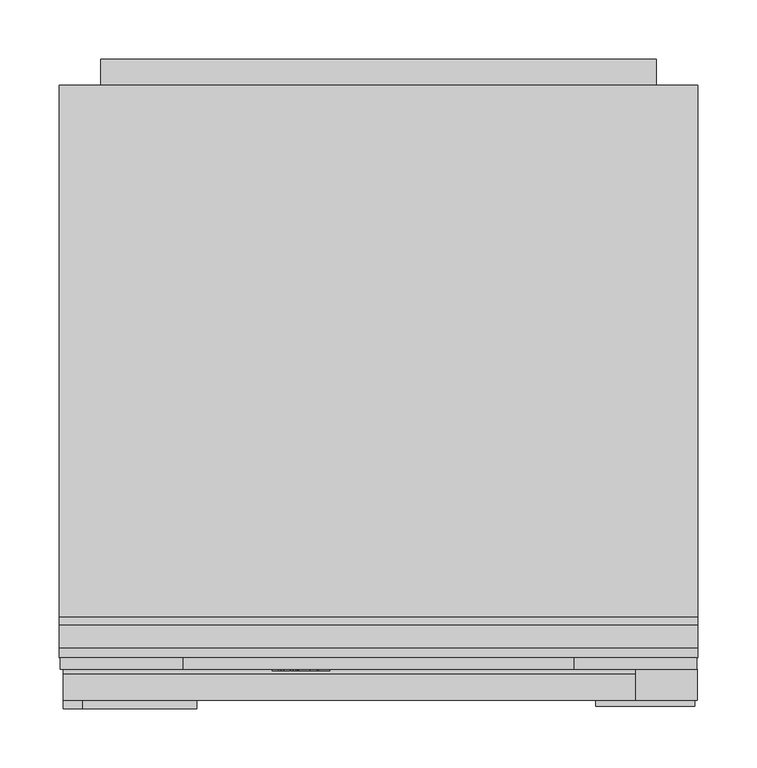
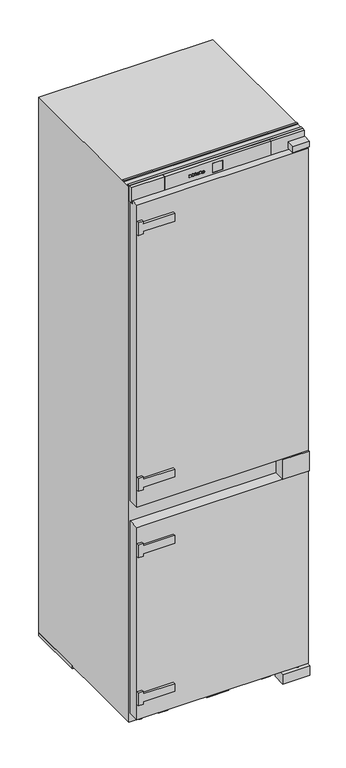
"""IFC4 building model written with IfcOpenShell, lengths in millimetres: proxy geometry, 12445080_EU1_KFN7733E : 38773305_EU1_12445080_KFN7733E."""

from ifc_helpers import new_model, si_unit, point, frame, frame_2d, origin, origin_with_axes, place, context, project, spatial, polyline, circle_curve, ellipse_curve, trimmed, segment, composite_curve, outline, extrude, faceted_brep, source, transform, mapped, element, save
from ifc_brep_helpers import plane_surface, cylinder_surface, revolved_surface, extruded_surface, advanced_brep


def specialty_equipment_90f1e37e(model_context):
    return source(origin(), model_context, "Body", "SolidModel", [
        advanced_brep(
        [(-46.64, 32.0, 1742.896), (-46.64, 32.0, 1743.704), (-41.288, 32.0, 1743.704), (-50.6, 32.0, 1743.704), (-48.4, 32.0, 1741.0), (-41.424, 32.0, 1742.896), (-43.84, 32.0, 1742.896), (-45.744, 32.0, 1742.0), (-46.64, 32.0, 1744.728), (-46.64, 32.0, 1745.6), (-45.272, 32.0, 1745.6), (-45.272, 32.0, 1744.728), (-46.64, 33.0, 1742.896), (-45.744, 33.0, 1742.0), (-43.84, 33.0, 1742.896), (-41.424, 33.0, 1742.896), (-48.4, 33.0, 1741.0), (-50.6, 33.0, 1743.704), (-41.288, 33.0, 1743.704), (-46.64, 33.0, 1743.704), (-46.64, 33.0, 1744.728), (-45.272, 33.0, 1744.728), (-45.272, 33.0, 1745.6), (-46.64, 33.0, 1745.6)],
        [
            (0, 1),
            (1, 2),
            (2, 3, ellipse_curve(frame((-45.944, 32.0, 1743.704), z_axis=(0.0, -1.0, 0.0), x_axis=(-1.0, 0.0, 0.0)), 4.656, 3.848)),
            (3, 4, circle_curve(frame((-47.5039564, 32.0, 1743.976), z_axis=(0.0, -1.0, 0.0), x_axis=(0.0, 0.0, -1.0)), 3.1079688)),
            (4, 5, circle_curve(frame((-46.0372064, 32.0, 1746.088), z_axis=(0.0, -1.0, 0.0), x_axis=(0.0, 0.0, -1.0)), 5.6098607)),
            (5, 6),
            (6, 7, circle_curve(frame((-45.3529412, 32.0, 1743.64), z_axis=(0.0, 1.0, 0.0), x_axis=(0.0, 0.0, -1.0)), 1.6859795)),
            (7, 0, circle_curve(frame((-45.744, 32.0, 1742.896), z_axis=(0.0, 1.0, 0.0), x_axis=(0.0, 0.0, -1.0)), 0.896)),
            (8, 9),
            (9, 10, circle_curve(frame((-45.956, 32.0, 1745.6), z_axis=(0.0, 1.0, 0.0), x_axis=(0.0, 0.0, -1.0)), 0.684)),
            (10, 11),
            (11, 8),
            (12, 13, circle_curve(frame((-45.744, 33.0, 1742.896), z_axis=(0.0, -1.0, 0.0), x_axis=(0.0, 0.0, -1.0)), 0.896)),
            (13, 14, circle_curve(frame((-45.3529412, 33.0, 1743.64), z_axis=(0.0, -1.0, 0.0), x_axis=(0.0, 0.0, -1.0)), 1.6859795)),
            (14, 15),
            (15, 16, circle_curve(frame((-46.0372064, 33.0, 1746.088), z_axis=(0.0, 1.0, 0.0), x_axis=(0.0, 0.0, -1.0)), 5.6098607)),
            (16, 17, circle_curve(frame((-47.5039564, 33.0, 1743.976), z_axis=(0.0, 1.0, 0.0), x_axis=(0.0, 0.0, -1.0)), 3.1079688)),
            (17, 18, ellipse_curve(frame((-45.944, 33.0, 1743.704), z_axis=(0.0, 1.0, 0.0), x_axis=(-1.0, 0.0, 0.0)), 4.656, 3.848)),
            (18, 19),
            (19, 12),
            (20, 21),
            (21, 22),
            (22, 23, circle_curve(frame((-45.956, 33.0, 1745.6), z_axis=(0.0, -1.0, 0.0), x_axis=(0.0, 0.0, -1.0)), 0.684)),
            (23, 20),
            (0, 12),
            (19, 1),
            (18, 2),
            (5, 15),
            (14, 6),
            (17, 3),
            (13, 7),
            (16, 4),
            (8, 20),
            (23, 9),
            (22, 10),
            (21, 11),
        ],
        [
            plane_surface(frame((-46.64, 32.0, 1743.704), z_axis=(0.0, -1.0, 0.0), x_axis=(0.0, 0.0, 1.0))),
            plane_surface(frame((-46.64, 33.0, 1743.704), z_axis=(0.0, 1.0, 0.0), x_axis=(0.0, 0.0, -1.0))),
            plane_surface(frame((-46.64, 32.0, 1742.896), z_axis=(1.0, 0.0, 0.0), x_axis=(0.0, 1.0, 0.0))),
            plane_surface(frame((-46.64, 32.0, 1743.704), z_axis=(0.0, 0.0, -1.0), x_axis=(0.0, 1.0, 0.0))),
            plane_surface(frame((-41.424, 32.0, 1742.896), z_axis=(0.0, 0.0, 1.0), x_axis=(0.0, 1.0, 0.0))),
            extruded_surface(trimmed(ellipse_curve(frame((-45.944, 34.0, 1743.704), z_axis=(0.0, -1.0, 0.0), x_axis=(-1.0, 0.0, 0.0)), 4.656, 3.848), [point((-41.288, 34.0, 1743.704))], [point((-50.6, 34.0, 1743.704))], True, "CARTESIAN"), (0.0, -1.0, 0.0), 1.0),
            revolved_surface(polyline([(-45.3529412, 33.0, 1741.9540205), (-45.3529412, 32.0, 1741.9540205)]), (-45.3529412, 33.0, 1743.64), (0.0, 1.0, 0.0)),
            revolved_surface(polyline([(-45.744, 33.0, 1742.0), (-45.744, 32.0, 1742.0)]), (-45.744, 33.0, 1742.896), (0.0, 1.0, 0.0)),
            cylinder_surface(frame((-47.5039564, 33.0, 1743.976), z_axis=(0.0, -1.0, 0.0), x_axis=(0.0, 0.0, -1.0)), 3.1079688),
            cylinder_surface(frame((-46.0372064, 33.0, 1746.088), z_axis=(0.0, -1.0, 0.0), x_axis=(0.0, 0.0, -1.0)), 5.6098607),
            plane_surface(frame((-46.64, 32.0, 1744.728), z_axis=(1.0, 0.0, 0.0), x_axis=(0.0, 1.0, 0.0))),
            revolved_surface(polyline([(-45.956, 33.0, 1744.916), (-45.956, 32.0, 1744.916)]), (-45.956, 33.0, 1745.6), (0.0, 1.0, 0.0)),
            plane_surface(frame((-45.272, 32.0, 1745.6), z_axis=(-1.0, 0.0, 0.0), x_axis=(0.0, 1.0, 0.0))),
            plane_surface(frame((-45.272, 32.0, 1744.728), z_axis=(0.0, 0.0, 1.0), x_axis=(0.0, 1.0, 0.0))),
        ],
        [
            (0, [[1, 2, 3, 4, 5, 6, 7, 8], [9, 10, 11, 12]]),
            (1, [[13, 14, 15, 16, 17, 18, 19, 20], [21, 22, 23, 24]]),
            (2, [[-1, 25, -20, 26]]),
            (3, [[-2, -26, -19, 27]]),
            (4, [[-6, 28, -15, 29]]),
            (5, [[-3, -27, -18, 30]]),
            (6, [[-7, -29, -14, 31]]),
            (7, [[-8, -31, -13, -25]]),
            (8, [[-4, -30, -17, 32]]),
            (9, [[-5, -32, -16, -28]]),
            (10, [[-9, 33, -24, 34]]),
            (11, [[-10, -34, -23, 35]]),
            (12, [[-11, -35, -22, 36]]),
            (13, [[-12, -36, -21, -33]]),
        ],
    ),
        advanced_brep(
        [(-63.336, 32.0, 1742.896), (-63.336, 32.0, 1743.704), (-57.984, 32.0, 1743.704), (-67.296, 32.0, 1743.704), (-65.096, 32.0, 1741.0), (-58.12, 32.0, 1742.896), (-60.536, 32.0, 1742.896), (-62.44, 32.0, 1742.0), (-63.336, 32.0, 1744.728), (-63.336, 32.0, 1745.6), (-61.968, 32.0, 1745.6), (-61.968, 32.0, 1744.728), (-63.336, 33.0, 1742.896), (-62.44, 33.0, 1742.0), (-60.536, 33.0, 1742.896), (-58.12, 33.0, 1742.896), (-65.096, 33.0, 1741.0), (-67.296, 33.0, 1743.704), (-57.984, 33.0, 1743.704), (-63.336, 33.0, 1743.704), (-63.336, 33.0, 1744.728), (-61.968, 33.0, 1744.728), (-61.968, 33.0, 1745.6), (-63.336, 33.0, 1745.6)],
        [
            (0, 1),
            (1, 2),
            (2, 3, ellipse_curve(frame((-62.64, 32.0, 1743.704), z_axis=(0.0, -1.0, 0.0), x_axis=(-1.0, 0.0, 0.0)), 4.656, 3.848)),
            (3, 4, circle_curve(frame((-64.1999564, 32.0, 1743.976), z_axis=(0.0, -1.0, 0.0), x_axis=(0.0, 0.0, -1.0)), 3.1079688)),
            (4, 5, circle_curve(frame((-62.7332064, 32.0, 1746.088), z_axis=(0.0, -1.0, 0.0), x_axis=(0.0, 0.0, -1.0)), 5.6098607)),
            (5, 6),
            (6, 7, circle_curve(frame((-62.0489412, 32.0, 1743.64), z_axis=(0.0, 1.0, 0.0), x_axis=(0.0, 0.0, -1.0)), 1.6859795)),
            (7, 0, circle_curve(frame((-62.44, 32.0, 1742.896), z_axis=(0.0, 1.0, 0.0), x_axis=(0.0, 0.0, -1.0)), 0.896)),
            (8, 9),
            (9, 10, circle_curve(frame((-62.652, 32.0, 1745.6), z_axis=(0.0, 1.0, 0.0), x_axis=(0.0, 0.0, -1.0)), 0.684)),
            (10, 11),
            (11, 8),
            (12, 13, circle_curve(frame((-62.44, 33.0, 1742.896), z_axis=(0.0, -1.0, 0.0), x_axis=(0.0, 0.0, -1.0)), 0.896)),
            (13, 14, circle_curve(frame((-62.0489412, 33.0, 1743.64), z_axis=(0.0, -1.0, 0.0), x_axis=(0.0, 0.0, -1.0)), 1.6859795)),
            (14, 15),
            (15, 16, circle_curve(frame((-62.7332064, 33.0, 1746.088), z_axis=(0.0, 1.0, 0.0), x_axis=(0.0, 0.0, -1.0)), 5.6098607)),
            (16, 17, circle_curve(frame((-64.1999564, 33.0, 1743.976), z_axis=(0.0, 1.0, 0.0), x_axis=(0.0, 0.0, -1.0)), 3.1079688)),
            (17, 18, ellipse_curve(frame((-62.64, 33.0, 1743.704), z_axis=(0.0, 1.0, 0.0), x_axis=(-1.0, 0.0, 0.0)), 4.656, 3.848)),
            (18, 19),
            (19, 12),
            (20, 21),
            (21, 22),
            (22, 23, circle_curve(frame((-62.652, 33.0, 1745.6), z_axis=(0.0, -1.0, 0.0), x_axis=(0.0, 0.0, -1.0)), 0.684)),
            (23, 20),
            (0, 12),
            (19, 1),
            (18, 2),
            (5, 15),
            (14, 6),
            (17, 3),
            (13, 7),
            (16, 4),
            (8, 20),
            (23, 9),
            (22, 10),
            (21, 11),
        ],
        [
            plane_surface(frame((-63.336, 32.0, 1743.704), z_axis=(0.0, -1.0, 0.0), x_axis=(0.0, 0.0, 1.0))),
            plane_surface(frame((-63.336, 33.0, 1743.704), z_axis=(0.0, 1.0, 0.0), x_axis=(0.0, 0.0, -1.0))),
            plane_surface(frame((-63.336, 32.0, 1742.896), z_axis=(1.0, 0.0, 0.0), x_axis=(0.0, 1.0, 0.0))),
            plane_surface(frame((-63.336, 32.0, 1743.704), z_axis=(0.0, 0.0, -1.0), x_axis=(0.0, 1.0, 0.0))),
            plane_surface(frame((-58.12, 32.0, 1742.896), z_axis=(0.0, 0.0, 1.0), x_axis=(0.0, 1.0, 0.0))),
            extruded_surface(trimmed(ellipse_curve(frame((-62.64, 34.0, 1743.704), z_axis=(0.0, -1.0, 0.0), x_axis=(-1.0, 0.0, 0.0)), 4.656, 3.848), [point((-57.984, 34.0, 1743.704))], [point((-67.296, 34.0, 1743.704))], True, "CARTESIAN"), (0.0, -1.0, 0.0), 1.0),
            revolved_surface(polyline([(-62.0489412, 33.0, 1741.9540205), (-62.0489412, 32.0, 1741.9540205)]), (-62.0489412, 33.0, 1743.64), (0.0, 1.0, 0.0)),
            revolved_surface(polyline([(-62.44, 33.0, 1742.0), (-62.44, 32.0, 1742.0)]), (-62.44, 33.0, 1742.896), (0.0, 1.0, 0.0)),
            cylinder_surface(frame((-64.1999564, 33.0, 1743.976), z_axis=(0.0, -1.0, 0.0), x_axis=(0.0, 0.0, -1.0)), 3.1079688),
            cylinder_surface(frame((-62.7332064, 33.0, 1746.088), z_axis=(0.0, -1.0, 0.0), x_axis=(0.0, 0.0, -1.0)), 5.6098607),
            plane_surface(frame((-63.336, 32.0, 1744.728), z_axis=(1.0, 0.0, 0.0), x_axis=(0.0, 1.0, 0.0))),
            revolved_surface(polyline([(-62.652, 33.0, 1744.916), (-62.652, 32.0, 1744.916)]), (-62.652, 33.0, 1745.6), (0.0, 1.0, 0.0)),
            plane_surface(frame((-61.968, 32.0, 1745.6), z_axis=(-1.0, 0.0, 0.0), x_axis=(0.0, 1.0, 0.0))),
            plane_surface(frame((-61.968, 32.0, 1744.728), z_axis=(0.0, 0.0, 1.0), x_axis=(0.0, 1.0, 0.0))),
        ],
        [
            (0, [[1, 2, 3, 4, 5, 6, 7, 8], [9, 10, 11, 12]]),
            (1, [[13, 14, 15, 16, 17, 18, 19, 20], [21, 22, 23, 24]]),
            (2, [[-1, 25, -20, 26]]),
            (3, [[-2, -26, -19, 27]]),
            (4, [[-6, 28, -15, 29]]),
            (5, [[-3, -27, -18, 30]]),
            (6, [[-7, -29, -14, 31]]),
            (7, [[-8, -31, -13, -25]]),
            (8, [[-4, -30, -17, 32]]),
            (9, [[-5, -32, -16, -28]]),
            (10, [[-9, 33, -24, 34]]),
            (11, [[-10, -34, -23, 35]]),
            (12, [[-11, -35, -22, 36]]),
            (13, [[-12, -36, -21, -33]]),
        ],
    ),
        extrude(outline(polyline([(1748.528, -72.08), (1747.232, -71.472), (1748.496, -68.76), (1749.792, -69.36), (1748.528, -72.08)])), frame((0.0, 32.0, 0.0), z_axis=(0.0, 1.0, 0.0), x_axis=(0.0, 0.0, 1.0)), (0.0, 0.0, 1.0), 1.0),
        extrude(outline(polyline([(1747.056, -74.056), (1745.624, -74.056), (1745.624, -73.104), (1742.344, -73.104), (1742.344, -74.056), (1741.0, -74.056), (1741.0, -67.744), (1742.344, -67.744), (1742.344, -68.672), (1747.056, -68.672), (1747.056, -74.056)])), frame((0.0, 32.0, 0.0), z_axis=(0.0, 1.0, 0.0), x_axis=(0.0, 0.0, 1.0)), (0.0, 0.0, 1.0), 1.0),
        extrude(outline(polyline([(1747.696, -57.536), (1747.696, -56.576), (1742.344, -56.576), (1742.344, -57.536), (1741.0, -57.536), (1741.0, -51.048), (1742.344, -51.048), (1742.344, -52.032), (1749.0, -52.032), (1749.0, -57.536), (1747.696, -57.536)])), frame((0.0, 32.0, 0.0), z_axis=(0.0, 1.0, 0.0), x_axis=(0.0, 0.0, 1.0)), (0.0, 0.0, 1.0), 1.0),
        extrude(outline(polyline([(1747.696, -90.0), (1747.696, -89.032), (1742.344, -89.032), (1742.344, -90.0), (1741.0, -90.0), (1741.0, -86.48), (1742.344, -86.48), (1742.344, -87.44), (1745.7471247, -87.44), (1741.0, -83.864), (1745.8152223, -80.272), (1742.344, -80.272), (1742.344, -81.256), (1741.0, -81.256), (1741.0, -74.872), (1742.344, -74.872), (1742.344, -75.888), (1747.696, -75.888), (1747.696, -74.872), (1749.0, -74.872), (1749.0, -79.744), (1746.0, -82.08), (1749.0, -84.424), (1749.0, -90.0), (1747.696, -90.0)])), frame((0.0, 32.0, 0.0), z_axis=(0.0, 1.0, 0.0), x_axis=(0.0, 0.0, 1.0)), (0.0, 0.0, 1.0), 1.0),
        extrude(outline(polyline([(616.0, -250.5), (616.0, -266.5), (574.0, -266.5), (574.0, -250.5), (582.0, -250.5), (582.0, -153.5), (608.0, -153.5), (608.0, -250.5), (616.0, -250.5)])), frame((0.0, 0.0, 0.0), z_axis=(0.0, 1.0, 0.0), x_axis=(0.0, 0.0, 1.0)), (0.0, 0.0, 1.0), 7.0),
        extrude(outline(polyline([(130.0, -250.5), (130.0, -266.5), (88.0, -266.5), (88.0, -250.5), (96.0, -250.5), (96.0, -153.5), (122.0, -153.5), (122.0, -250.5), (130.0, -250.5)])), frame((0.0, 0.0, 0.0), z_axis=(0.0, 1.0, 0.0), x_axis=(0.0, 0.0, 1.0)), (0.0, 0.0, 1.0), 7.0),
        extrude(outline(polyline([(1632.0, -266.5), (1632.0, -250.5), (1640.0, -250.5), (1640.0, -153.5), (1666.0, -153.5), (1666.0, -250.5), (1674.0, -250.5), (1674.0, -266.5), (1632.0, -266.5)])), frame((0.0, 0.0, 0.0), z_axis=(0.0, 1.0, 0.0), x_axis=(0.0, 0.0, 1.0)), (0.0, 0.0, 1.0), 7.0),
        extrude(outline(polyline([(792.0, -266.5), (792.0, -250.5), (800.0, -250.5), (800.0, -153.5), (826.0, -153.5), (826.0, -250.5), (834.0, -250.5), (834.0, -266.5), (792.0, -266.5)])), frame((0.0, 0.0, 0.0), z_axis=(0.0, 1.0, 0.0), x_axis=(0.0, 0.0, 1.0)), (0.0, 0.0, 1.0), 7.0),
        extrude(outline(polyline([(7.0, 736.0), (7.0, 1728.0), (29.0, 1728.0), (29.0, 1715.0), (43.0, 1715.0), (43.0, 736.0), (7.0, 736.0)])), frame((-266.5, 0.0, 0.0), z_axis=(1.0, 0.0, 0.0), x_axis=(0.0, 1.0, 0.0)), (0.0, 0.0, 1.0), 533.0),
        extrude(outline(polyline([(268.5, 7.0), (186.5, 7.0), (186.5, 43.0), (268.5, 43.0), (268.5, 7.0)]), holes=[composite_curve([segment(trimmed(circle_curve(frame_2d((236.5, 16.0)), 6.0), [point((242.5, 16.0))], [point((230.5, 16.0))], True, "CARTESIAN"), True, "CONTINUOUS"), segment(trimmed(circle_curve(frame_2d((236.5, 16.0)), 6.0), [point((230.5, 16.0))], [point((242.5, 16.0))], True, "CARTESIAN"), True, "CONTINUOUS")], self_intersect=False)]), frame((0.0, 0.0, 669.0), z_axis=(0.0, 0.0, 1.0), x_axis=(1.0, 0.0, 0.0)), (0.0, 0.0, 1.0), 64.0),
        extrude(outline(polyline([(183.5, 43.0), (267.5, 43.0), (267.5, 2.0), (183.5, 2.0), (183.5, 43.0)])), frame((0.0, 0.0, 1.0), z_axis=(0.0, 0.0, 1.0), x_axis=(1.0, 0.0, 0.0)), (0.0, 0.0, 1.0), 31.0),
        extrude(outline(polyline([(269.5, 7.0), (217.5, 7.0), (217.5, 33.0), (269.5, 33.0), (269.5, 7.0)])), frame((0.0, 0.0, 1731.0), z_axis=(0.0, 0.0, 1.0), x_axis=(1.0, 0.0, 0.0)), (0.0, 0.0, 1.0), 19.0),
        extrude(outline(polyline([(-266.5, 43.0), (266.5, 43.0), (266.5, 7.0), (-266.5, 7.0), (-266.5, 43.0)])), frame((0.0, 0.0, 38.0), z_axis=(0.0, 0.0, 1.0), x_axis=(1.0, 0.0, 0.0)), (0.0, 0.0, 1.0), 631.0),
        extrude(outline(composite_curve([segment(trimmed(circle_curve(frame_2d((236.5, 16.0)), 6.0), [point((242.5, 16.0))], [point((230.5, 16.0))], False, "CARTESIAN"), True, "CONTINUOUS"), segment(trimmed(circle_curve(frame_2d((236.5, 16.0)), 6.0), [point((230.5, 16.0))], [point((242.5, 16.0))], False, "CARTESIAN"), True, "CONTINUOUS")], self_intersect=False)), frame((0.0, 0.0, 669.0), z_axis=(0.0, 0.0, 1.0), x_axis=(1.0, 0.0, 0.0)), (0.0, 0.0, 1.0), 67.0),
        extrude(outline(composite_curve([segment(trimmed(circle_curve(frame_2d((236.5, 16.0)), 6.0), [point((236.5, 22.0))], [point((236.5, 10.0))], False, "CARTESIAN"), True, "CONTINUOUS"), segment(trimmed(circle_curve(frame_2d((236.5, 16.0)), 6.0), [point((236.5, 10.0))], [point((236.5, 22.0))], False, "CARTESIAN"), True, "CONTINUOUS")], self_intersect=False)), frame((0.0, 0.0, 1728.0), z_axis=(0.0, 0.0, 1.0), x_axis=(1.0, 0.0, 0.0)), (0.0, 0.0, 1.0), 3.0),
        extrude(outline(composite_curve([segment(trimmed(circle_curve(frame_2d((236.5, 16.0)), 6.0), [point((242.5, 16.0))], [point((230.5, 16.0))], False, "CARTESIAN"), True, "CONTINUOUS"), segment(trimmed(circle_curve(frame_2d((236.5, 16.0)), 6.0), [point((230.5, 16.0))], [point((242.5, 16.0))], False, "CARTESIAN"), True, "CONTINUOUS")], self_intersect=False)), frame((0.0, 0.0, 32.0), z_axis=(0.0, 0.0, 1.0), x_axis=(1.0, 0.0, 0.0)), (0.0, 0.0, 1.0), 6.0),
        faceted_brep([(165.0, 33.0, 1770.0), (-165.0, 33.0, 1770.0), (-165.0, 33.0, 1721.0), (165.0, 33.0, 1721.0), (15.0, 33.0, 1761.0), (15.0, 33.0, 1731.0), (-15.0, 33.0, 1731.0), (-15.0, 33.0, 1761.0), (165.0, 43.0, 1770.0), (165.0, 43.0, 1721.0), (-165.0, 43.0, 1721.0), (-165.0, 43.0, 1770.0), (15.0, 34.0, 1761.0), (-15.0, 34.0, 1761.0), (-15.0, 34.0, 1731.0), (15.0, 34.0, 1731.0)], [[[0, 1, 2, 3], [4, 5, 6, 7]], [[8, 9, 10, 11]], [[0, 3, 9, 8]], [[3, 2, 10, 9]], [[2, 1, 11, 10]], [[1, 0, 8, 11]], [[12, 13, 14, 15]], [[12, 15, 5, 4]], [[15, 14, 6, 5]], [[14, 13, 7, 6]], [[13, 12, 4, 7]]]),
        extrude(outline(polyline([(165.0, 43.0), (269.0, 43.0), (269.0, 33.0), (165.0, 33.0), (165.0, 43.0)])), frame((0.0, 0.0, 1721.0), z_axis=(0.0, 0.0, 1.0), x_axis=(1.0, 0.0, 0.0)), (0.0, 0.0, 1.0), 49.0),
        extrude(outline(polyline([(-269.0, 43.0), (-165.0, 43.0), (-165.0, 33.0), (-269.0, 33.0), (-269.0, 43.0)])), frame((0.0, 0.0, 1721.0), z_axis=(0.0, 0.0, 1.0), x_axis=(1.0, 0.0, 0.0)), (0.0, 0.0, 1.0), 49.0),
        extrude(outline(polyline([(-15.0, 34.0), (15.0, 34.0), (15.0, 33.0), (-15.0, 33.0), (-15.0, 34.0)])), frame((0.0, 0.0, 1731.0), z_axis=(0.0, 0.0, 1.0), x_axis=(1.0, 0.0, 0.0)), (0.0, 0.0, 1.0), 30.0),
        extrude(outline(polyline([(1647.0, -235.0), (27.0, -235.0), (27.0, 235.0), (130.0, 235.0), (130.0, 180.0), (160.0, 180.0), (160.0, 235.0), (1647.0, 235.0), (1647.0, -235.0)])), frame((0.0, 527.0, 0.0), z_axis=(0.0, 1.0, 0.0), x_axis=(0.0, 0.0, 1.0)), (0.0, 0.0, 1.0), 22.0),
        extrude(outline(polyline([(-144.929185, 51.0), (-174.0, 51.0), (-194.6983363, 347.0), (-165.6275213, 347.0), (-144.929185, 51.0)])), origin_with_axes(), (0.0, 0.0, 1.0), 10.0),
        extrude(outline(polyline([(144.929185, 51.0), (165.6275213, 347.0), (194.6983363, 347.0), (174.0, 51.0), (144.929185, 51.0)])), origin_with_axes(), (0.0, 0.0, 1.0), 10.0),
        extrude(outline(polyline([(540.4384039, 149.874164), (547.6647626, 149.874164), (547.6647626, 139.824714), (540.2826236, 139.824714), (540.2826236, 141.0836119), (546.4056247, 141.0836119), (546.4056247, 144.3750411), (540.7614845, 144.3750411), (540.7614845, 145.6249589), (546.4056247, 145.6249589), (546.4056247, 148.6148402), (540.4384039, 148.6148402), (540.4384039, 149.874164)])), frame((194.0, 0.0, 0.0), z_axis=(1.0, 0.0, 0.0), x_axis=(0.0, 1.0, 0.0)), (0.0, 0.0, 1.0), 1.0),
        extrude(outline(polyline([(537.1383052, 149.8716162), (538.399354, 149.8716162), (538.399354, 139.824714), (532.1225656, 139.824714), (532.1225656, 141.0927041), (537.1383052, 141.0927041), (537.1383052, 149.8716162)])), frame((194.0, 0.0, 0.0), z_axis=(1.0, 0.0, 0.0), x_axis=(0.0, 1.0, 0.0)), (0.0, 0.0, 1.0), 1.0),
        advanced_brep(
        [(232.5, 527.0, 145.0), (217.5, 527.0, 145.0), (232.5, 548.5, 145.0), (217.5, 533.5, 145.0), (195.0, 548.5, 145.0), (195.0, 533.5, 145.0)],
        [
            (0, 1, circle_curve(frame((225.0, 527.0, 145.0), z_axis=(0.0, -1.0, 0.0), x_axis=(-1.0, 0.0, 0.0)), 7.5)),
            (1, 0, circle_curve(frame((225.0, 527.0, 145.0), z_axis=(0.0, -1.0, 0.0), x_axis=(-1.0, 0.0, 0.0)), 7.5)),
            (0, 2),
            (2, 3, ellipse_curve(frame((225.0, 541.0, 145.0), z_axis=(0.7071067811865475, -0.7071067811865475, 0.0), x_axis=(-0.7071067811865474, -0.7071067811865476, 0.0)), 10.6066017, 7.5)),
            (3, 1),
            (3, 2, ellipse_curve(frame((225.0, 541.0, 145.0), z_axis=(0.7071067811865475, -0.7071067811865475, 0.0), x_axis=(-0.7071067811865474, -0.7071067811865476, 0.0)), 10.6066017, 7.5)),
            (4, 5, circle_curve(frame((195.0, 541.0, 145.0), z_axis=(-1.0, 0.0, 0.0), x_axis=(0.0, -1.0, 0.0)), 7.5)),
            (5, 4, circle_curve(frame((195.0, 541.0, 145.0), z_axis=(-1.0, 0.0, 0.0), x_axis=(0.0, -1.0, 0.0)), 7.5)),
            (2, 4),
            (5, 3),
        ],
        [
            plane_surface(frame((225.0, 527.0, 145.0), z_axis=(0.0, -1.0, 0.0), x_axis=(0.0, 0.0, 1.0))),
            cylinder_surface(frame((225.0, 527.0, 145.0), z_axis=(0.0, -1.0, 0.0), x_axis=(-1.0, 0.0, 0.0)), 7.5),
            plane_surface(frame((195.0, 541.0, 145.0), z_axis=(-1.0, 0.0, 0.0), x_axis=(0.0, 0.0, 1.0))),
            cylinder_surface(frame((225.0, 541.0, 145.0), z_axis=(1.0, 0.0, 0.0), x_axis=(0.0, -1.0, 0.0)), 7.5),
        ],
        [
            (0, [[1, 2]]),
            (1, [[-1, 3, 4, 5]]),
            (1, [[-2, -5, 6, -3]]),
            (2, [[7, 8]]),
            (3, [[-4, 9, -8, 10]]),
            (3, [[-6, -10, -7, -9]]),
        ],
    ),
        extrude(outline(polyline([(-34.0, 43.0), (34.0, 43.0), (34.0, 34.0), (-34.0, 34.0), (-34.0, 43.0)])), frame((0.0, 0.0, 13.0), z_axis=(0.0, 0.0, 1.0), x_axis=(1.0, 0.0, 0.0)), (0.0, 0.0, 1.0), 19.0),
        extrude(outline(polyline([(270.0, 51.0), (270.0, 43.0), (-270.0, 43.0), (-270.0, 51.0), (270.0, 51.0)])), frame((0.0, 0.0, 1767.0), z_axis=(0.0, 0.0, 1.0), x_axis=(1.0, 0.0, 0.0)), (0.0, 0.0, 1.0), 3.0),
        extrude(outline(polyline([(270.0, 77.0), (270.0, 71.0), (-270.0, 71.0), (-270.0, 77.0), (270.0, 77.0)])), frame((0.0, 0.0, 1767.0), z_axis=(0.0, 0.0, 1.0), x_axis=(1.0, 0.0, 0.0)), (0.0, 0.0, 1.0), 3.0),
        extrude(outline(polyline([(-234.0, 43.0), (-234.0, 489.0), (234.0, 489.0), (234.0, 43.0), (-234.0, 43.0)])), frame((0.0, 0.0, 960.0), z_axis=(0.0, 0.0, 1.0), x_axis=(1.0, 0.0, 0.0)), (0.0, 0.0, 1.0), 3.0),
        extrude(outline(polyline([(-209.0, 311.0), (-209.0, 450.0), (209.0, 450.0), (209.0, 311.0), (-209.0, 311.0)])), frame((0.0, 0.0, 93.0), z_axis=(0.0, 0.0, 1.0), x_axis=(1.0, 0.0, 0.0)), (0.0, 0.0, 1.0), 181.0),
        extrude(outline(composite_curve([segment(trimmed(circle_curve(frame_2d((228.0, 63.0)), 11.0), [point((239.0, 63.0))], [point((217.0, 63.0))], False, "CARTESIAN"), True, "CONTINUOUS"), segment(trimmed(circle_curve(frame_2d((228.0, 63.0)), 11.0), [point((217.0, 63.0))], [point((239.0, 63.0))], False, "CARTESIAN"), True, "CONTINUOUS")], self_intersect=False)), origin_with_axes(), (0.0, 0.0, 1.0), 10.0),
        extrude(outline(composite_curve([segment(trimmed(circle_curve(frame_2d((-228.0, 63.0)), 11.0), [point((-217.0, 63.0))], [point((-239.0, 63.0))], False, "CARTESIAN"), True, "CONTINUOUS"), segment(trimmed(circle_curve(frame_2d((-228.0, 63.0)), 11.0), [point((-239.0, 63.0))], [point((-217.0, 63.0))], False, "CARTESIAN"), True, "CONTINUOUS")], self_intersect=False)), origin_with_axes(), (0.0, 0.0, 1.0), 10.0),
        extrude(outline(polyline([(270.0, 527.0), (270.0, 347.0), (-270.0, 347.0), (-270.0, 527.0), (270.0, 527.0)])), origin_with_axes(), (0.0, 0.0, 1.0), 10.0),
        faceted_brep([(270.0, 527.0, 1767.0), (-270.0, 527.0, 1767.0), (-270.0, 43.0, 1767.0), (270.0, 43.0, 1767.0), (270.0, 527.0, 10.0), (270.0, 43.0, 10.0), (-270.0, 43.0, 10.0), (-270.0, 527.0, 10.0), (234.0, 43.0, 1692.0), (234.0, 43.0, 765.0), (-234.0, 43.0, 765.0), (-234.0, 43.0, 1692.0), (209.0, 43.0, 633.0), (209.0, 43.0, 93.0), (-209.0, 43.0, 93.0), (-209.0, 43.0, 633.0), (234.0, 489.0, 1692.0), (-234.0, 489.0, 1692.0), (-234.0, 489.0, 765.0), (234.0, 489.0, 765.0), (209.0, 450.0, 633.0), (209.0, 450.0, 93.0), (-209.0, 450.0, 633.0), (-209.0, 450.0, 93.0)], [[[0, 1, 2, 3]], [[4, 5, 6, 7]], [[1, 0, 4, 7]], [[2, 1, 7, 6]], [[3, 2, 6, 5], [8, 9, 10, 11], [12, 13, 14, 15]], [[0, 3, 5, 4]], [[16, 17, 18, 19]], [[16, 19, 9, 8]], [[19, 18, 10, 9]], [[18, 17, 11, 10]], [[17, 16, 8, 11]], [[20, 21, 13, 12]], [[22, 15, 14, 23]], [[21, 20, 22, 23]], [[13, 21, 23, 14]], [[20, 12, 15, 22]]]),
    ])


if __name__ == "__main__":
    model = new_model("IFC4")
    model_context = context("Model", 3, world=origin())
    ifc_project = project(units=[si_unit("LENGTHUNIT", "METRE", prefix="MILLI")], contexts=[model_context])
    site = spatial("IfcSite", under=ifc_project)
    building = spatial("IfcBuilding", under=site)
    placement = place(None, origin())
    specialty_equipment_shape = specialty_equipment_90f1e37e(model_context)
    element("IfcBuildingElementProxy", 1, Name="12445080_EU1_KFN7733E : 38773305_EU1_12445080_KFN7733E", ObjectType="12445080_EU1_KFN7733E : 38773305_EU1_12445080_KFN7733E", at=placement, inside=building, context=model_context, shape_type="MappedRepresentation", body=[
        mapped(specialty_equipment_shape, transform((0.0, 0.0, 0.0), x_axis=(1.0, 0.0, 0.0), y_axis=(0.0, 1.0, 0.0), z_axis=(0.0, 0.0, 1.0))),
    ])
    save(model, "model.ifc")
